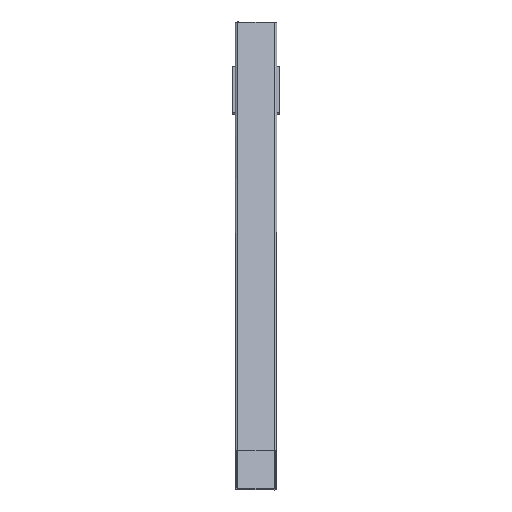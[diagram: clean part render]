
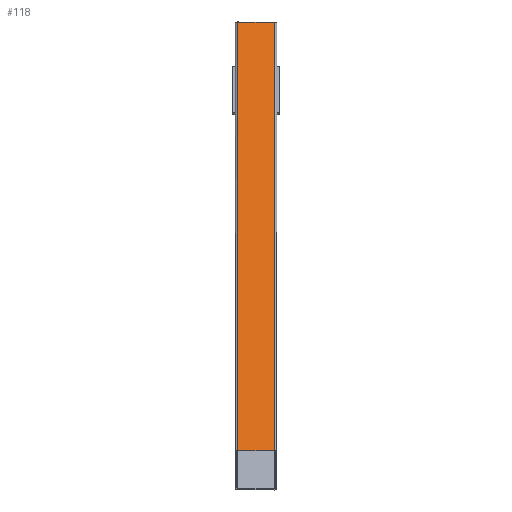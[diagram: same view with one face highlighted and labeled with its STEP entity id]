
A CAD part, front view. The second image highlights one B-rep face of the part: STEP entity #118.
In plain terms, the highlighted planar face has unit normal (0, -0.574, 0.819).
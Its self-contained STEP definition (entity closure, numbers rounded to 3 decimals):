
#76=FACE_OUTER_BOUND('',#318,.T.);
#118=ADVANCED_FACE('',(#76),#144,.T.);
#144=PLANE('',#758);
#162=LINE('',#1043,#212);
#186=LINE('',#1104,#236);
#187=LINE('',#1108,#237);
#188=LINE('',#1110,#238);
#212=VECTOR('',#856,1.);
#236=VECTOR('',#906,1.);
#237=VECTOR('',#911,1.);
#238=VECTOR('',#912,1.);
#318=EDGE_LOOP('',(#429,#430,#431,#432));
#429=ORIENTED_EDGE('',*,*,#622,.T.);
#430=ORIENTED_EDGE('',*,*,#590,.T.);
#431=ORIENTED_EDGE('',*,*,#620,.T.);
#432=ORIENTED_EDGE('',*,*,#623,.T.);
#526=VERTEX_POINT('',#1044);
#527=VERTEX_POINT('',#1045);
#550=VERTEX_POINT('',#1105);
#551=VERTEX_POINT('',#1109);
#590=EDGE_CURVE('',#526,#527,#162,.T.);
#620=EDGE_CURVE('',#527,#550,#186,.T.);
#622=EDGE_CURVE('',#551,#526,#187,.T.);
#623=EDGE_CURVE('',#550,#551,#188,.T.);
#758=AXIS2_PLACEMENT_3D('',#1111,#913,#914);
#856=DIRECTION('',(1.,0.,0.));
#906=DIRECTION('',(0.,0.819,0.574));
#911=DIRECTION('',(0.,-0.819,-0.574));
#912=DIRECTION('',(-1.,0.,0.));
#913=DIRECTION('',(0.,-0.574,0.819));
#914=DIRECTION('',(0.,-0.819,-0.574));
#1043=CARTESIAN_POINT('',(1189.5,294.339,-42.5));
#1044=CARTESIAN_POINT('',(1095.5,294.339,-42.5));
#1045=CARTESIAN_POINT('',(1183.5,294.339,-42.5));
#1104=CARTESIAN_POINT('',(1183.5,-1086.176,-1009.147));
#1105=CARTESIAN_POINT('',(1183.5,1753.906,979.5));
#1108=CARTESIAN_POINT('',(1095.5,-1086.176,-1009.147));
#1109=CARTESIAN_POINT('',(1095.5,1753.906,979.5));
#1110=CARTESIAN_POINT('',(1189.5,1753.906,979.5));
#1111=CARTESIAN_POINT('',(1189.5,-1086.176,-1009.147));
